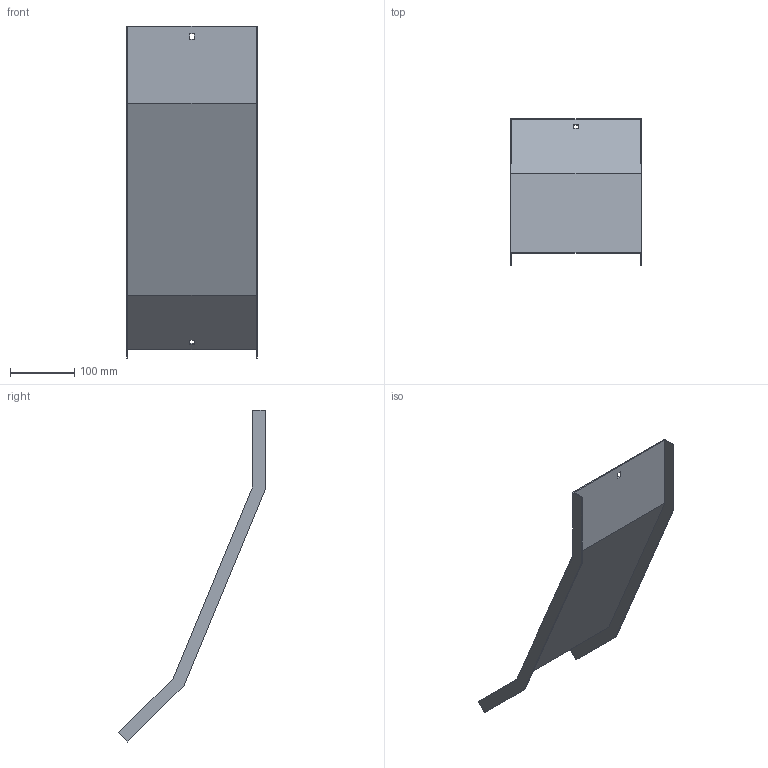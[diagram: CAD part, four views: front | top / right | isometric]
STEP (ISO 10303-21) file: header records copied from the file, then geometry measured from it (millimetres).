
FILE_DESCRIPTION (( 'STEP AP214' ), '1' );
FILE_NAME ('31N5R200_H150.step', '2025-02-21T14:28:31', ( '' ), ( '' ), 'SwSTEP 2.0', 'SolidWorks 2023', '' );
FILE_SCHEMA (( 'AUTOMOTIVE_DESIGN' ));
Length unit declared in the file: millimetre
Products named in the file (1): 31N5R200_H150
Bounding box: 203 x 228.46 x 517.41 mm (x, y, z)
Volume: 203160.9 mm3; surface area: 273429.2 mm2
Topology: 1 solids, 1 shells, 26 faces, 72 edges, 48 vertices
Faces by surface type: plane 26
Entity records: 847 total; most frequent: CARTESIAN_POINT 147, ORIENTED_EDGE 144, DIRECTION 126, EDGE_CURVE 72, VECTOR 72, LINE 72, VERTEX_POINT 48, EDGE_LOOP 30
